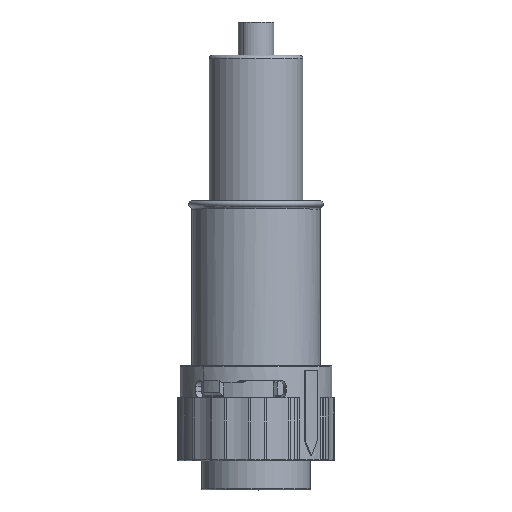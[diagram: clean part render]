
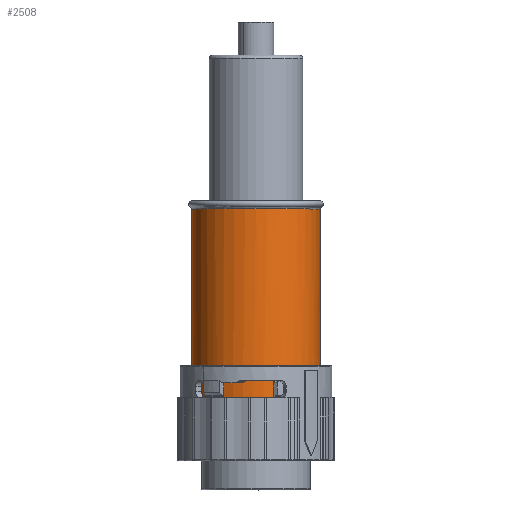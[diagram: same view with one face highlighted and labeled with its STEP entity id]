
A CAD part, top view. The second image highlights one B-rep face of the part: STEP entity #2508.
In plain terms, the highlighted cylindrical face has radius 6.579 mm (diameter 13.157 mm), a partial arc.
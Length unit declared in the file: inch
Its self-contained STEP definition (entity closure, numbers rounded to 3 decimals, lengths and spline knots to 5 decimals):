
#75=DIRECTION('',(0.,-1.,0.));
#76=VECTOR('',#75,0.6936);
#77=CARTESIAN_POINT('',(-0.259,0.6971,0.));
#78=LINE('',#77,#76);
#123=DIRECTION('',(0.,1.,0.));
#124=VECTOR('',#123,0.6936);
#125=CARTESIAN_POINT('',(0.259,0.0035,0.));
#126=LINE('',#125,#124);
#127=CARTESIAN_POINT('',(0.,0.6971,0.));
#128=DIRECTION('',(0.,1.,0.));
#129=DIRECTION('',(-1.,0.,0.));
#130=AXIS2_PLACEMENT_3D('',#127,#128,#129);
#132=CARTESIAN_POINT('',(0.,0.0035,0.));
#133=DIRECTION('',(0.,-1.,0.));
#134=DIRECTION('',(1.,0.,0.));
#135=AXIS2_PLACEMENT_3D('',#132,#133,#134);
#137=DIRECTION('',(-0.003,-1.,0.));
#138=VECTOR('',#137,0.06276);
#139=CARTESIAN_POINT('',(0.25804,-0.0065,0.02222));
#140=LINE('',#139,#138);
#141=DIRECTION('',(-0.002,-1.,-0.003));
#142=VECTOR('',#141,0.06276);
#143=CARTESIAN_POINT('',(0.15011,-0.0065,0.21106));
#144=LINE('',#143,#142);
#145=CARTESIAN_POINT('',(0.,0.0035,0.));
#146=DIRECTION('',(0.,-1.,0.));
#147=DIRECTION('',(0.547,0.,0.837));
#148=AXIS2_PLACEMENT_3D('',#145,#146,#147);
#150=DIRECTION('',(-0.001,-1.,-0.003));
#151=VECTOR('',#150,0.06276);
#152=CARTESIAN_POINT('',(0.07066,-0.0065,0.24917));
#153=LINE('',#152,#151);
#154=DIRECTION('',(0.002,-1.,-0.003));
#155=VECTOR('',#154,0.06275);
#156=CARTESIAN_POINT('',(-0.12981,-0.0065,0.22412));
#157=LINE('',#156,#155);
#158=CARTESIAN_POINT('',(0.,0.0035,0.));
#159=DIRECTION('',(0.,-1.,0.));
#160=DIRECTION('',(-0.535,0.,0.845));
#161=AXIS2_PLACEMENT_3D('',#158,#159,#160);
#163=DIRECTION('',(0.003,-1.,-0.002));
#164=VECTOR('',#163,0.06275);
#165=CARTESIAN_POINT('',(-0.19818,-0.0065,0.16675));
#166=LINE('',#165,#164);
#167=DIRECTION('',(0.003,-1.,-0.001));
#168=VECTOR('',#167,0.06276);
#169=CARTESIAN_POINT('',(-0.25083,-0.0065,0.06453));
#170=LINE('',#169,#168);
#171=CARTESIAN_POINT('',(0.,0.0035,0.));
#172=DIRECTION('',(0.,-1.,0.));
#173=DIRECTION('',(-0.982,0.,0.19));
#174=AXIS2_PLACEMENT_3D('',#171,#172,#173);
#194=CARTESIAN_POINT('',(0.25804,-0.0065,0.02222));
#195=CARTESIAN_POINT('',(0.25804,-0.00477,
0.02222));
#196=CARTESIAN_POINT('',(0.25813,-0.0013,
0.02129));
#197=CARTESIAN_POINT('',(0.25843,0.00255,
0.01743));
#198=CARTESIAN_POINT('',(0.25863,0.0035,0.0139));
#199=CARTESIAN_POINT('',(0.25872,0.0035,0.01213));
#267=CARTESIAN_POINT('',(0.,-0.0695,0.));
#268=DIRECTION('',(0.,1.,0.));
#269=DIRECTION('',(0.58,0.,0.815));
#270=AXIS2_PLACEMENT_3D('',#267,#268,#269);
#315=CARTESIAN_POINT('',(0.,-0.0695,0.));
#316=DIRECTION('',(0.,1.,0.));
#317=DIRECTION('',(-0.968,0.,0.249));
#318=AXIS2_PLACEMENT_3D('',#315,#316,#317);
#327=CARTESIAN_POINT('',(0.,-0.0695,0.));
#328=DIRECTION('',(0.,1.,0.));
#329=DIRECTION('',(-0.501,0.,0.865));
#330=AXIS2_PLACEMENT_3D('',#327,#328,#329);
#1330=CARTESIAN_POINT('',(0.07061,-0.06925,
0.24898));
#1343=CARTESIAN_POINT('',(0.07066,-0.0065,0.24917));
#1344=CARTESIAN_POINT('',(0.07066,-0.00479,
0.24917));
#1345=CARTESIAN_POINT('',(0.07174,-0.00136,
0.24887));
#1346=CARTESIAN_POINT('',(0.07618,0.00248,
0.24756));
#1347=CARTESIAN_POINT('',(0.08023,0.0035,0.24627));
#1348=CARTESIAN_POINT('',(0.08237,0.0035,0.24555));
#1377=CARTESIAN_POINT('',(0.14176,0.0035,0.21676));
#1378=CARTESIAN_POINT('',(0.14324,0.0035,0.21579));
#1379=CARTESIAN_POINT('',(0.14618,0.00255,
0.21382));
#1380=CARTESIAN_POINT('',(0.14936,-0.0013,
0.2116));
#1381=CARTESIAN_POINT('',(0.15011,-0.00477,
0.21106));
#1382=CARTESIAN_POINT('',(0.15011,-0.0065,0.21106));
#1642=CARTESIAN_POINT('',(-0.25064,-0.06925,
0.06448));
#1655=CARTESIAN_POINT('',(-0.25427,0.0035,0.04929));
#1656=CARTESIAN_POINT('',(-0.25389,0.0035,0.05125));
#1657=CARTESIAN_POINT('',(-0.25311,0.00298,
0.05499));
#1658=CARTESIAN_POINT('',(-0.25202,0.001,
0.05979));
#1659=CARTESIAN_POINT('',(-0.25111,-0.00217,
0.06346));
#1660=CARTESIAN_POINT('',(-0.25083,-0.00501,
0.06453));
#1661=CARTESIAN_POINT('',(-0.25083,-0.0065,0.06453));
#1745=CARTESIAN_POINT('',(-0.19801,-0.06925,
0.16661));
#1747=CARTESIAN_POINT('',(-0.12969,-0.06925,
0.22393));
#1758=CARTESIAN_POINT('',(-0.19818,-0.0065,0.16675));
#1759=CARTESIAN_POINT('',(-0.19818,-0.00477,
0.16675));
#1760=CARTESIAN_POINT('',(-0.19758,-0.0013,
0.16747));
#1761=CARTESIAN_POINT('',(-0.19506,0.00255,
0.17041));
#1762=CARTESIAN_POINT('',(-0.19271,0.0035,0.17305));
#1763=CARTESIAN_POINT('',(-0.19151,0.0035,0.17437));
#1805=CARTESIAN_POINT('',(-0.13846,0.0035,0.21888));
#1806=CARTESIAN_POINT('',(-0.13696,0.0035,0.21983));
#1807=CARTESIAN_POINT('',(-0.13395,0.00255,
0.22169));
#1808=CARTESIAN_POINT('',(-0.13061,-0.0013,
0.22366));
#1809=CARTESIAN_POINT('',(-0.12981,-0.00477,
0.22412));
#1810=CARTESIAN_POINT('',(-0.12981,-0.0065,0.22412));
#2260=CARTESIAN_POINT('',(0.15011,-0.0695,0.21106));
#2261=CARTESIAN_POINT('',(0.25804,-0.0695,0.02222));
#2262=VERTEX_POINT('',#2260);
#2263=VERTEX_POINT('',#2261);
#2266=VERTEX_POINT('',#1745);
#2267=VERTEX_POINT('',#1747);
#2268=VERTEX_POINT('',#1330);
#2269=VERTEX_POINT('',#1642);
#2272=CARTESIAN_POINT('',(0.15011,-0.0065,0.21106));
#2273=VERTEX_POINT('',#2272);
#2274=CARTESIAN_POINT('',(0.14176,0.0035,0.21676));
#2275=VERTEX_POINT('',#2274);
#2276=CARTESIAN_POINT('',(0.08237,0.0035,0.24555));
#2277=VERTEX_POINT('',#2276);
#2278=CARTESIAN_POINT('',(0.25804,-0.0065,0.02222));
#2279=VERTEX_POINT('',#2278);
#2280=CARTESIAN_POINT('',(0.25872,0.0035,0.01213));
#2281=VERTEX_POINT('',#2280);
#2306=CARTESIAN_POINT('',(-0.25083,-0.0065,0.06453));
#2307=VERTEX_POINT('',#2306);
#2308=CARTESIAN_POINT('',(-0.25427,0.0035,0.04929));
#2309=VERTEX_POINT('',#2308);
#2310=CARTESIAN_POINT('',(-0.19818,-0.0065,0.16675));
#2311=VERTEX_POINT('',#2310);
#2312=CARTESIAN_POINT('',(-0.19151,0.0035,0.17437));
#2313=VERTEX_POINT('',#2312);
#2314=CARTESIAN_POINT('',(-0.12981,-0.0065,0.22412));
#2315=VERTEX_POINT('',#2314);
#2316=CARTESIAN_POINT('',(-0.13846,0.0035,0.21888));
#2317=VERTEX_POINT('',#2316);
#2318=CARTESIAN_POINT('',(0.07066,-0.0065,0.24917));
#2319=VERTEX_POINT('',#2318);
#2320=CARTESIAN_POINT('',(-0.259,0.0035,0.));
#2321=VERTEX_POINT('',#2320);
#2322=CARTESIAN_POINT('',(0.259,0.0035,0.));
#2323=VERTEX_POINT('',#2322);
#2324=CARTESIAN_POINT('',(-0.259,0.6971,0.));
#2325=CARTESIAN_POINT('',(0.259,0.6971,0.));
#2326=VERTEX_POINT('',#2324);
#2327=VERTEX_POINT('',#2325);
#2459=CARTESIAN_POINT('',(0.,0.7665,0.));
#2460=DIRECTION('',(0.,-1.,0.));
#2461=DIRECTION('',(-1.,0.,0.));
#2462=AXIS2_PLACEMENT_3D('',#2459,#2460,#2461);
#2463=CYLINDRICAL_SURFACE('',#2462,0.259);
#2465=ORIENTED_EDGE('',*,*,#2464,.T.);
#2466=ORIENTED_EDGE('',*,*,#2454,.F.);
#2468=ORIENTED_EDGE('',*,*,#2467,.T.);
#2470=ORIENTED_EDGE('',*,*,#2469,.F.);
#2472=ORIENTED_EDGE('',*,*,#2471,.T.);
#2474=ORIENTED_EDGE('',*,*,#2473,.F.);
#2476=ORIENTED_EDGE('',*,*,#2475,.F.);
#2478=ORIENTED_EDGE('',*,*,#2477,.F.);
#2480=ORIENTED_EDGE('',*,*,#2479,.T.);
#2482=ORIENTED_EDGE('',*,*,#2481,.F.);
#2484=ORIENTED_EDGE('',*,*,#2483,.T.);
#2486=ORIENTED_EDGE('',*,*,#2485,.F.);
#2488=ORIENTED_EDGE('',*,*,#2487,.F.);
#2490=ORIENTED_EDGE('',*,*,#2489,.F.);
#2492=ORIENTED_EDGE('',*,*,#2491,.T.);
#2494=ORIENTED_EDGE('',*,*,#2493,.F.);
#2496=ORIENTED_EDGE('',*,*,#2495,.T.);
#2498=ORIENTED_EDGE('',*,*,#2497,.F.);
#2500=ORIENTED_EDGE('',*,*,#2499,.F.);
#2502=ORIENTED_EDGE('',*,*,#2501,.F.);
#2504=ORIENTED_EDGE('',*,*,#2503,.T.);
#2505=ORIENTED_EDGE('',*,*,#2414,.F.);
#2506=EDGE_LOOP('',(#2465,#2466,#2468,#2470,#2472,#2474,#2476,#2478,#2480,#2482,
#2484,#2486,#2488,#2490,#2492,#2494,#2496,#2498,#2500,#2502,#2504,#2505));
#2507=FACE_OUTER_BOUND('',#2506,.F.);
#2508=ADVANCED_FACE('',(#2507),#2463,.T.);
#131=CIRCLE('',#130,0.259);
#136=CIRCLE('',#135,0.259);
#149=CIRCLE('',#148,0.259);
#162=CIRCLE('',#161,0.259);
#175=CIRCLE('',#174,0.259);
#200=B_SPLINE_CURVE_WITH_KNOTS('',3,(#194,#195,#196,#197,#198,#199),
.UNSPECIFIED.,.F.,.F.,(4,1,1,4),(0.,0.33333,0.66667,1.),
.UNSPECIFIED.);
#271=CIRCLE('',#270,0.259);
#319=CIRCLE('',#318,0.259);
#331=CIRCLE('',#330,0.259);
#1349=B_SPLINE_CURVE_WITH_KNOTS('',3,(#1343,#1344,#1345,#1346,#1347,#1348),
.UNSPECIFIED.,.F.,.F.,(4,1,1,4),(0.,0.33333,0.66667,1.),
.UNSPECIFIED.);
#1383=B_SPLINE_CURVE_WITH_KNOTS('',3,(#1377,#1378,#1379,#1380,#1381,#1382),
.UNSPECIFIED.,.F.,.F.,(4,1,1,4),(0.,0.33333,0.66667,1.),
.UNSPECIFIED.);
#1662=B_SPLINE_CURVE_WITH_KNOTS('',3,(#1655,#1656,#1657,#1658,#1659,#1660,
#1661),.UNSPECIFIED.,.F.,.F.,(4,1,1,1,4),(0.,0.25,0.5,0.75,1.),
.UNSPECIFIED.);
#1764=B_SPLINE_CURVE_WITH_KNOTS('',3,(#1758,#1759,#1760,#1761,#1762,#1763),
.UNSPECIFIED.,.F.,.F.,(4,1,1,4),(0.,0.33333,0.66667,1.),
.UNSPECIFIED.);
#1811=B_SPLINE_CURVE_WITH_KNOTS('',3,(#1805,#1806,#1807,#1808,#1809,#1810),
.UNSPECIFIED.,.F.,.F.,(4,1,1,4),(0.,0.33333,0.66667,1.),
.UNSPECIFIED.);
#2414=EDGE_CURVE('',#2326,#2321,#78,.T.);
#2454=EDGE_CURVE('',#2323,#2327,#126,.T.);
#2464=EDGE_CURVE('',#2326,#2327,#131,.T.);
#2467=EDGE_CURVE('',#2323,#2281,#136,.T.);
#2469=EDGE_CURVE('',#2279,#2281,#200,.T.);
#2471=EDGE_CURVE('',#2279,#2263,#140,.T.);
#2473=EDGE_CURVE('',#2262,#2263,#271,.T.);
#2475=EDGE_CURVE('',#2273,#2262,#144,.T.);
#2477=EDGE_CURVE('',#2275,#2273,#1383,.T.);
#2479=EDGE_CURVE('',#2275,#2277,#149,.T.);
#2481=EDGE_CURVE('',#2319,#2277,#1349,.T.);
#2483=EDGE_CURVE('',#2319,#2268,#153,.T.);
#2485=EDGE_CURVE('',#2267,#2268,#331,.T.);
#2487=EDGE_CURVE('',#2315,#2267,#157,.T.);
#2489=EDGE_CURVE('',#2317,#2315,#1811,.T.);
#2491=EDGE_CURVE('',#2317,#2313,#162,.T.);
#2493=EDGE_CURVE('',#2311,#2313,#1764,.T.);
#2495=EDGE_CURVE('',#2311,#2266,#166,.T.);
#2497=EDGE_CURVE('',#2269,#2266,#319,.T.);
#2499=EDGE_CURVE('',#2307,#2269,#170,.T.);
#2501=EDGE_CURVE('',#2309,#2307,#1662,.T.);
#2503=EDGE_CURVE('',#2309,#2321,#175,.T.);
